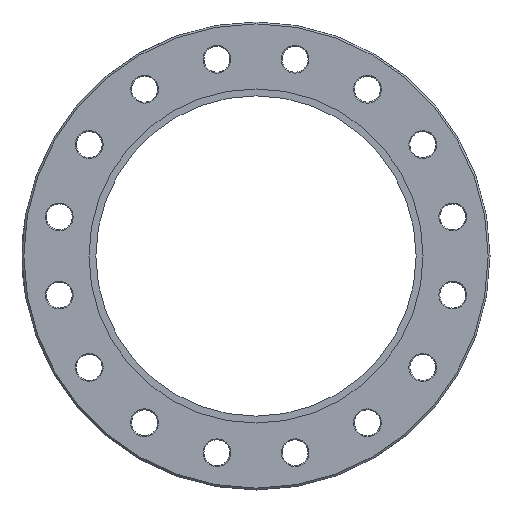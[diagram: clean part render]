
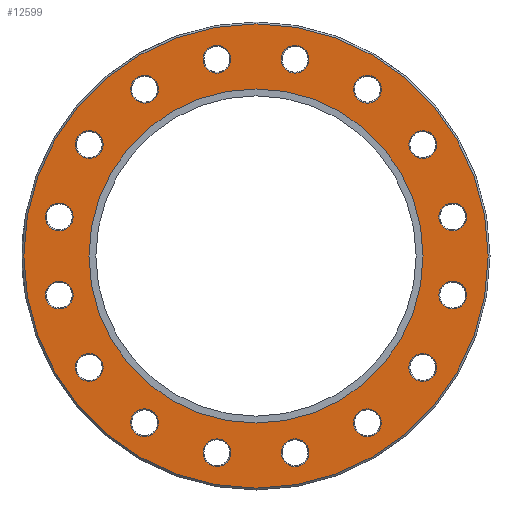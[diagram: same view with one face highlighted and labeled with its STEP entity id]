
A CAD part, left-side view. The second image highlights one B-rep face of the part: STEP entity #12599.
In plain terms, the highlighted planar face has unit normal (-1, 0, 0).
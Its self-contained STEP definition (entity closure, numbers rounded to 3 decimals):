
#12389=CARTESIAN_POINT('',(-20.,75.4,0.));
#12390=VERTEX_POINT('',#12389);
#12391=CARTESIAN_POINT('',(-20.,0.,0.0));
#12392=DIRECTION('',(1.0,0.0,0.0));
#12393=DIRECTION('',(0.0,-1.0,0.0));
#12394=AXIS2_PLACEMENT_3D('',#12391,#12392,#12393);
#12395=CIRCLE('',#12394,75.4);
#12396=EDGE_CURVE('',#12390,#12390,#12395,.T.);
#12404=CARTESIAN_POINT('',(-20.,38.,0.0));
#12405=DIRECTION('',(-1.0,0.0,0.0));
#12406=DIRECTION('',(0.0,0.0,1.0));
#12407=AXIS2_PLACEMENT_3D('',#12404,#12405,#12406);
#12408=PLANE('',#12407);
#12409=ORIENTED_EDGE('',*,*,#12396,.F.);
#12410=EDGE_LOOP('',(#12409));
#12411=FACE_OUTER_BOUND('',#12410,.T.);
#12412=CARTESIAN_POINT('',(-20.,55.892,-32.038));
#12413=VERTEX_POINT('',#12412);
#12414=CARTESIAN_POINT('',(-20.,54.17,-36.195));
#12415=DIRECTION('',(-1.,0.,0.));
#12416=DIRECTION('',(0.,-0.383,-0.924));
#12417=AXIS2_PLACEMENT_3D('',#12414,#12415,#12416);
#12418=CIRCLE('',#12417,4.5);
#12419=EDGE_CURVE('',#12413,#12413,#12418,.T.);
#12420=ORIENTED_EDGE('',*,*,#12419,.F.);
#12421=EDGE_LOOP('',(#12420));
#12422=FACE_BOUND('',#12421,.T.);
#12423=CARTESIAN_POINT('',(-20.,16.868,-62.176));
#12424=VERTEX_POINT('',#12423);
#12425=CARTESIAN_POINT('',(-20.,12.71,-63.898));
#12426=DIRECTION('',(-1.,0.,0.));
#12427=DIRECTION('',(0.,-0.924,-0.383));
#12428=AXIS2_PLACEMENT_3D('',#12425,#12426,#12427);
#12429=CIRCLE('',#12428,4.5);
#12430=EDGE_CURVE('',#12424,#12424,#12429,.T.);
#12431=ORIENTED_EDGE('',*,*,#12430,.F.);
#12432=EDGE_LOOP('',(#12431));
#12433=FACE_BOUND('',#12432,.T.);
#12434=CARTESIAN_POINT('',(-20.,-32.038,-55.892));
#12435=VERTEX_POINT('',#12434);
#12436=CARTESIAN_POINT('',(-20.,-36.195,-54.17));
#12437=DIRECTION('',(-1.,0.,0.));
#12438=DIRECTION('',(0.,-0.924,0.383));
#12439=AXIS2_PLACEMENT_3D('',#12436,#12437,#12438);
#12440=CIRCLE('',#12439,4.5);
#12441=EDGE_CURVE('',#12435,#12435,#12440,.T.);
#12442=ORIENTED_EDGE('',*,*,#12441,.F.);
#12443=EDGE_LOOP('',(#12442));
#12444=FACE_BOUND('',#12443,.T.);
#12445=CARTESIAN_POINT('',(-20.,-62.176,-16.868));
#12446=VERTEX_POINT('',#12445);
#12447=CARTESIAN_POINT('',(-20.,-63.898,-12.71));
#12448=DIRECTION('',(-1.,0.,0.));
#12449=DIRECTION('',(0.,-0.383,0.924));
#12450=AXIS2_PLACEMENT_3D('',#12447,#12448,#12449);
#12451=CIRCLE('',#12450,4.5);
#12452=EDGE_CURVE('',#12446,#12446,#12451,.T.);
#12453=ORIENTED_EDGE('',*,*,#12452,.F.);
#12454=EDGE_LOOP('',(#12453));
#12455=FACE_BOUND('',#12454,.T.);
#12456=CARTESIAN_POINT('',(-20.,-55.892,32.038));
#12457=VERTEX_POINT('',#12456);
#12458=CARTESIAN_POINT('',(-20.,-54.17,36.195));
#12459=DIRECTION('',(-1.0,0.,0.));
#12460=DIRECTION('',(0.,0.383,0.924));
#12461=AXIS2_PLACEMENT_3D('',#12458,#12459,#12460);
#12462=CIRCLE('',#12461,4.5);
#12463=EDGE_CURVE('',#12457,#12457,#12462,.T.);
#12464=ORIENTED_EDGE('',*,*,#12463,.F.);
#12465=EDGE_LOOP('',(#12464));
#12466=FACE_BOUND('',#12465,.T.);
#12467=CARTESIAN_POINT('',(-20.,-16.868,62.176));
#12468=VERTEX_POINT('',#12467);
#12469=CARTESIAN_POINT('',(-20.,-12.71,63.898));
#12470=DIRECTION('',(-1.0,0.,0.));
#12471=DIRECTION('',(0.,0.924,0.383));
#12472=AXIS2_PLACEMENT_3D('',#12469,#12470,#12471);
#12473=CIRCLE('',#12472,4.5);
#12474=EDGE_CURVE('',#12468,#12468,#12473,.T.);
#12475=ORIENTED_EDGE('',*,*,#12474,.F.);
#12476=EDGE_LOOP('',(#12475));
#12477=FACE_BOUND('',#12476,.T.);
#12478=CARTESIAN_POINT('',(-20.,32.038,55.892));
#12479=VERTEX_POINT('',#12478);
#12480=CARTESIAN_POINT('',(-20.,36.195,54.17));
#12481=DIRECTION('',(-1.,0.,0.));
#12482=DIRECTION('',(0.,0.924,-0.383));
#12483=AXIS2_PLACEMENT_3D('',#12480,#12481,#12482);
#12484=CIRCLE('',#12483,4.5);
#12485=EDGE_CURVE('',#12479,#12479,#12484,.T.);
#12486=ORIENTED_EDGE('',*,*,#12485,.F.);
#12487=EDGE_LOOP('',(#12486));
#12488=FACE_BOUND('',#12487,.T.);
#12489=CARTESIAN_POINT('',(-20.,62.176,16.868));
#12490=VERTEX_POINT('',#12489);
#12491=CARTESIAN_POINT('',(-20.,63.898,12.71));
#12492=DIRECTION('',(-1.,0.,0.));
#12493=DIRECTION('',(0.,0.383,-0.924));
#12494=AXIS2_PLACEMENT_3D('',#12491,#12492,#12493);
#12495=CIRCLE('',#12494,4.5);
#12496=EDGE_CURVE('',#12490,#12490,#12495,.T.);
#12497=ORIENTED_EDGE('',*,*,#12496,.F.);
#12498=EDGE_LOOP('',(#12497));
#12499=FACE_BOUND('',#12498,.T.);
#12500=CARTESIAN_POINT('',(-20.,63.898,-8.21));
#12501=VERTEX_POINT('',#12500);
#12502=CARTESIAN_POINT('',(-20.,63.898,-12.71));
#12503=DIRECTION('',(-1.0,0.0,0.0));
#12504=DIRECTION('',(0.0,0.0,-1.0));
#12505=AXIS2_PLACEMENT_3D('',#12502,#12503,#12504);
#12506=CIRCLE('',#12505,4.5);
#12507=EDGE_CURVE('',#12501,#12501,#12506,.T.);
#12508=ORIENTED_EDGE('',*,*,#12507,.F.);
#12509=EDGE_LOOP('',(#12508));
#12510=FACE_BOUND('',#12509,.T.);
#12511=CARTESIAN_POINT('',(-20.,50.988,39.377));
#12512=VERTEX_POINT('',#12511);
#12513=CARTESIAN_POINT('',(-20.,54.17,36.195));
#12514=DIRECTION('',(-1.,0.,0.));
#12515=DIRECTION('',(0.,0.707,-0.707));
#12516=AXIS2_PLACEMENT_3D('',#12513,#12514,#12515);
#12517=CIRCLE('',#12516,4.5);
#12518=EDGE_CURVE('',#12512,#12512,#12517,.T.);
#12519=ORIENTED_EDGE('',*,*,#12518,.F.);
#12520=EDGE_LOOP('',(#12519));
#12521=FACE_BOUND('',#12520,.T.);
#12522=CARTESIAN_POINT('',(-20.0,8.21,63.898));
#12523=VERTEX_POINT('',#12522);
#12524=CARTESIAN_POINT('',(-20.,12.71,63.898));
#12525=DIRECTION('',(-1.0,0.0,0.0));
#12526=DIRECTION('',(0.0,1.0,0.0));
#12527=AXIS2_PLACEMENT_3D('',#12524,#12525,#12526);
#12528=CIRCLE('',#12527,4.5);
#12529=EDGE_CURVE('',#12523,#12523,#12528,.T.);
#12530=ORIENTED_EDGE('',*,*,#12529,.F.);
#12531=EDGE_LOOP('',(#12530));
#12532=FACE_BOUND('',#12531,.T.);
#12533=CARTESIAN_POINT('',(-20.,-39.377,50.988));
#12534=VERTEX_POINT('',#12533);
#12535=CARTESIAN_POINT('',(-20.,-36.195,54.17));
#12536=DIRECTION('',(-1.0,0.,0.));
#12537=DIRECTION('',(0.,0.707,0.707));
#12538=AXIS2_PLACEMENT_3D('',#12535,#12536,#12537);
#12539=CIRCLE('',#12538,4.5);
#12540=EDGE_CURVE('',#12534,#12534,#12539,.T.);
#12541=ORIENTED_EDGE('',*,*,#12540,.F.);
#12542=EDGE_LOOP('',(#12541));
#12543=FACE_BOUND('',#12542,.T.);
#12544=CARTESIAN_POINT('',(-20.,-63.898,8.21));
#12545=VERTEX_POINT('',#12544);
#12546=CARTESIAN_POINT('',(-20.,-63.898,12.71));
#12547=DIRECTION('',(-1.0,0.0,0.0));
#12548=DIRECTION('',(0.0,0.0,1.0));
#12549=AXIS2_PLACEMENT_3D('',#12546,#12547,#12548);
#12550=CIRCLE('',#12549,4.5);
#12551=EDGE_CURVE('',#12545,#12545,#12550,.T.);
#12552=ORIENTED_EDGE('',*,*,#12551,.F.);
#12553=EDGE_LOOP('',(#12552));
#12554=FACE_BOUND('',#12553,.T.);
#12555=CARTESIAN_POINT('',(-20.,-50.988,-39.377));
#12556=VERTEX_POINT('',#12555);
#12557=CARTESIAN_POINT('',(-20.,-54.17,-36.195));
#12558=DIRECTION('',(-1.,0.,0.));
#12559=DIRECTION('',(0.,-0.707,0.707));
#12560=AXIS2_PLACEMENT_3D('',#12557,#12558,#12559);
#12561=CIRCLE('',#12560,4.5);
#12562=EDGE_CURVE('',#12556,#12556,#12561,.T.);
#12563=ORIENTED_EDGE('',*,*,#12562,.F.);
#12564=EDGE_LOOP('',(#12563));
#12565=FACE_BOUND('',#12564,.T.);
#12566=CARTESIAN_POINT('',(-20.,-8.21,-63.898));
#12567=VERTEX_POINT('',#12566);
#12568=CARTESIAN_POINT('',(-20.,-12.71,-63.898));
#12569=DIRECTION('',(-1.0,0.0,0.0));
#12570=DIRECTION('',(0.0,-1.0,0.0));
#12571=AXIS2_PLACEMENT_3D('',#12568,#12569,#12570);
#12572=CIRCLE('',#12571,4.5);
#12573=EDGE_CURVE('',#12567,#12567,#12572,.T.);
#12574=ORIENTED_EDGE('',*,*,#12573,.F.);
#12575=EDGE_LOOP('',(#12574));
#12576=FACE_BOUND('',#12575,.T.);
#12577=CARTESIAN_POINT('',(-20.,39.377,-50.988));
#12578=VERTEX_POINT('',#12577);
#12579=CARTESIAN_POINT('',(-20.,36.195,-54.17));
#12580=DIRECTION('',(-1.0,0.,0.));
#12581=DIRECTION('',(0.,-0.707,-0.707));
#12582=AXIS2_PLACEMENT_3D('',#12579,#12580,#12581);
#12583=CIRCLE('',#12582,4.5);
#12584=EDGE_CURVE('',#12578,#12578,#12583,.T.);
#12585=ORIENTED_EDGE('',*,*,#12584,.F.);
#12586=EDGE_LOOP('',(#12585));
#12587=FACE_BOUND('',#12586,.T.);
#12588=CARTESIAN_POINT('',(-20.,54.25,0.0));
#12589=VERTEX_POINT('',#12588);
#12590=CARTESIAN_POINT('',(-20.,0.0,0.0));
#12591=DIRECTION('',(1.0,0.0,0.0));
#12592=DIRECTION('',(0.0,1.0,0.0));
#12593=AXIS2_PLACEMENT_3D('',#12590,#12591,#12592);
#12594=CIRCLE('',#12593,54.25);
#12595=EDGE_CURVE('',#12589,#12589,#12594,.T.);
#12596=ORIENTED_EDGE('',*,*,#12595,.T.);
#12597=EDGE_LOOP('',(#12596));
#12598=FACE_BOUND('',#12597,.T.);
#12599=ADVANCED_FACE('',(#12411,#12422,#12433,#12444,#12455,#12466,#12477,#12488,#12499,#12510,#12521,#12532,#12543,#12554,#12565,#12576,#12587,#12598),#12408,.T.);
